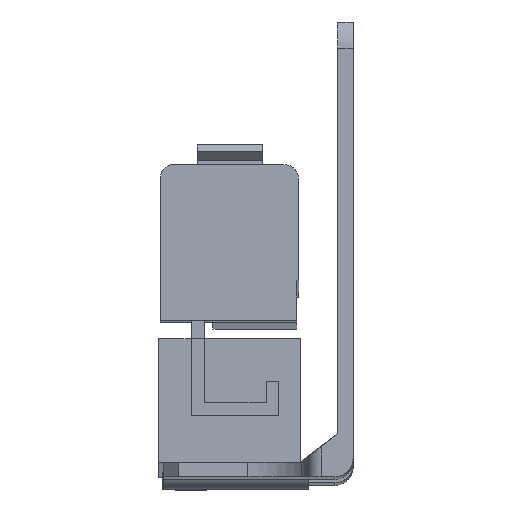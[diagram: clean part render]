
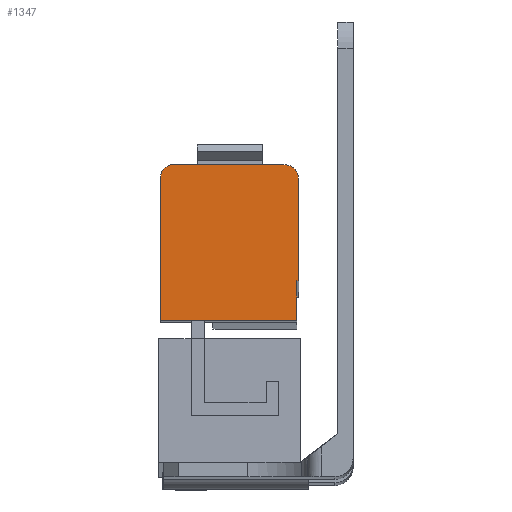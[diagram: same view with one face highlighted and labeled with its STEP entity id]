
A CAD part, front view. The second image highlights one B-rep face of the part: STEP entity #1347.
In plain terms, the highlighted planar face has unit normal (0, -1, 0.005).
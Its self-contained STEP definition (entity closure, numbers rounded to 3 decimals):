
#13 = CARTESIAN_POINT ( 'NONE',  ( -7.5, -22.185, -6.725 ) ) ;
#14 = CARTESIAN_POINT ( 'NONE',  ( -26.5, -22.183, -6.425 ) ) ;
#30 = CARTESIAN_POINT ( 'NONE',  ( -7.75, -22.287, -26.175 ) ) ;
#34 = CARTESIAN_POINT ( 'NONE',  ( -26.5, -22.287, -26.175 ) ) ;
#36 = CARTESIAN_POINT ( 'NONE',  ( -24.75, -22.174, -4.675 ) ) ;
#42 = CARTESIAN_POINT ( 'NONE',  ( -9.55, -22.174, -4.675 ) ) ;
#54 = CARTESIAN_POINT ( 'NONE',  ( -7.5, -22.258, -20.675 ) ) ;
#66 = CARTESIAN_POINT ( 'NONE',  ( -7.75, -22.258, -20.675 ) ) ;
#673 = CARTESIAN_POINT ( 'NONE',  ( -7.5, -22.185, -6.725 ) ) ;
#674 = DIRECTION ( 'NONE',  ( 0., 0.005, 1. ) ) ;
#679 = CARTESIAN_POINT ( 'NONE',  ( -9.55, -22.185, -6.725 ) ) ;
#680 = DIRECTION ( 'NONE',  ( 0., -1., 0.005 ) ) ;
#681 = DIRECTION ( 'NONE',  ( 0., 0.005, 1. ) ) ;
#688 = CARTESIAN_POINT ( 'NONE',  ( -24.75, -22.174, -4.675 ) ) ;
#689 = DIRECTION ( 'NONE',  ( -1., 0., 0. ) ) ;
#694 = CARTESIAN_POINT ( 'NONE',  ( -24.75, -22.183, -6.425 ) ) ;
#695 = DIRECTION ( 'NONE',  ( 0., -1., 0.005 ) ) ;
#696 = DIRECTION ( 'NONE',  ( 0., -0.005, -1. ) ) ;
#703 = CARTESIAN_POINT ( 'NONE',  ( -26.5, -22.183, -6.425 ) ) ;
#704 = DIRECTION ( 'NONE',  ( 0., -0.005, -1. ) ) ;
#705 = CARTESIAN_POINT ( 'NONE',  ( -26.5, -22.258, -20.675 ) ) ;
#706 = DIRECTION ( 'NONE',  ( 1., 0., 0. ) ) ;
#711 = CARTESIAN_POINT ( 'NONE',  ( -7.75, -22.287, -26.175 ) ) ;
#712 = DIRECTION ( 'NONE',  ( 1., 0., 0. ) ) ;
#713 = CARTESIAN_POINT ( 'NONE',  ( -7.75, -22.287, -26.175 ) ) ;
#714 = DIRECTION ( 'NONE',  ( 0., 0.005, 1. ) ) ;
#1347 = ADVANCED_FACE ( 'NONE', ( #3669 ), #2847, .T. ) ;
#1383 = VERTEX_POINT ( 'NONE', #13 ) ;
#1389 = VERTEX_POINT ( 'NONE', #14 ) ;
#1413 = VERTEX_POINT ( 'NONE', #30 ) ;
#1417 = VERTEX_POINT ( 'NONE', #34 ) ;
#1419 = VERTEX_POINT ( 'NONE', #36 ) ;
#1462 = VERTEX_POINT ( 'NONE', #42 ) ;
#1516 = VERTEX_POINT ( 'NONE', #54 ) ;
#1528 = VERTEX_POINT ( 'NONE', #66 ) ;
#2090 = EDGE_LOOP ( 'NONE', ( #2488, #2489, #2490, #2491, #2492, #2493, #2494, #2495 ) ) ;
#2488 = ORIENTED_EDGE ( 'NONE', *, *, #3039, .T. ) ;
#2489 = ORIENTED_EDGE ( 'NONE', *, *, #3042, .T. ) ;
#2490 = ORIENTED_EDGE ( 'NONE', *, *, #3046, .T. ) ;
#2491 = ORIENTED_EDGE ( 'NONE', *, *, #3049, .T. ) ;
#2492 = ORIENTED_EDGE ( 'NONE', *, *, #3053, .T. ) ;
#2493 = ORIENTED_EDGE ( 'NONE', *, *, #3057, .T. ) ;
#2494 = ORIENTED_EDGE ( 'NONE', *, *, #3058, .T. ) ;
#2495 = ORIENTED_EDGE ( 'NONE', *, *, #3054, .T. ) ;
#2735 = DIRECTION ( 'NONE',  ( 0., -0.005, -1. ) ) ;
#2736 = DIRECTION ( 'NONE',  ( 0., -1., 0.005 ) ) ;
#2737 = CARTESIAN_POINT ( 'NONE',  ( -24.75, -22.183, -6.425 ) ) ;
#2847 = PLANE ( 'NONE',  #4618 ) ;
#3039 = EDGE_CURVE ( 'NONE', #1516, #1383, #3992, .T. ) ;
#3042 = EDGE_CURVE ( 'NONE', #1383, #1462, #3999, .T. ) ;
#3046 = EDGE_CURVE ( 'NONE', #1462, #1419, #4005, .T. ) ;
#3049 = EDGE_CURVE ( 'NONE', #1419, #1389, #4012, .T. ) ;
#3053 = EDGE_CURVE ( 'NONE', #1389, #1417, #4018, .T. ) ;
#3054 = EDGE_CURVE ( 'NONE', #1528, #1516, #4020, .T. ) ;
#3057 = EDGE_CURVE ( 'NONE', #1417, #1413, #4026, .T. ) ;
#3058 = EDGE_CURVE ( 'NONE', #1413, #1528, #4028, .T. ) ;
#3669 = FACE_OUTER_BOUND ( 'NONE', #2090, .T. ) ;
#3992 = LINE ( 'NONE', #673, #3993 ) ;
#3993 = VECTOR ( 'NONE', #674, 1000. ) ;
#3999 = CIRCLE ( 'NONE', #4669, 2.05 ) ;
#4005 = LINE ( 'NONE', #688, #4006 ) ;
#4006 = VECTOR ( 'NONE', #689, 1000. ) ;
#4012 = CIRCLE ( 'NONE', #4670, 1.75 ) ;
#4018 = LINE ( 'NONE', #703, #4019 ) ;
#4019 = VECTOR ( 'NONE', #704, 1000. ) ;
#4020 = LINE ( 'NONE', #705, #4021 ) ;
#4021 = VECTOR ( 'NONE', #706, 1000. ) ;
#4026 = LINE ( 'NONE', #711, #4027 ) ;
#4027 = VECTOR ( 'NONE', #712, 1000. ) ;
#4028 = LINE ( 'NONE', #713, #4029 ) ;
#4029 = VECTOR ( 'NONE', #714, 1000. ) ;
#4618 = AXIS2_PLACEMENT_3D ( 'NONE', #2737, #2736, #2735 ) ;
#4669 = AXIS2_PLACEMENT_3D ( 'NONE', #679, #680, #681 ) ;
#4670 = AXIS2_PLACEMENT_3D ( 'NONE', #694, #695, #696 ) ;
